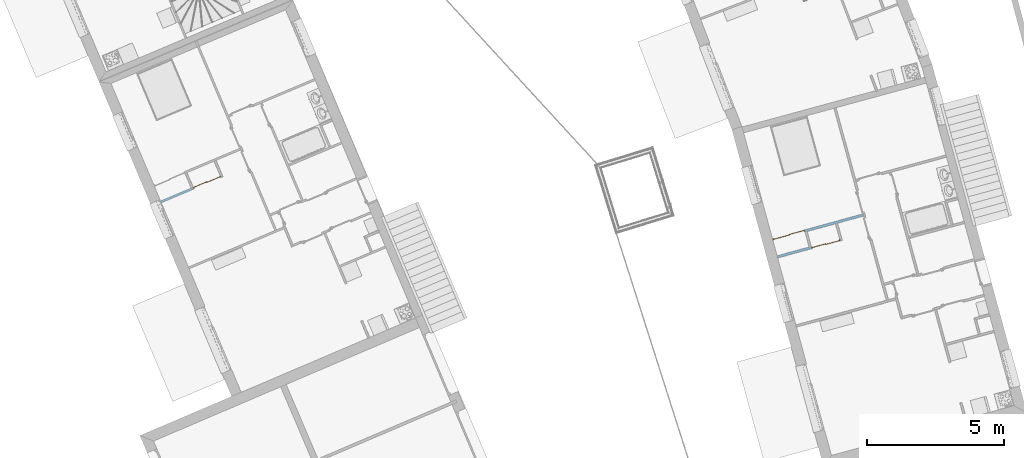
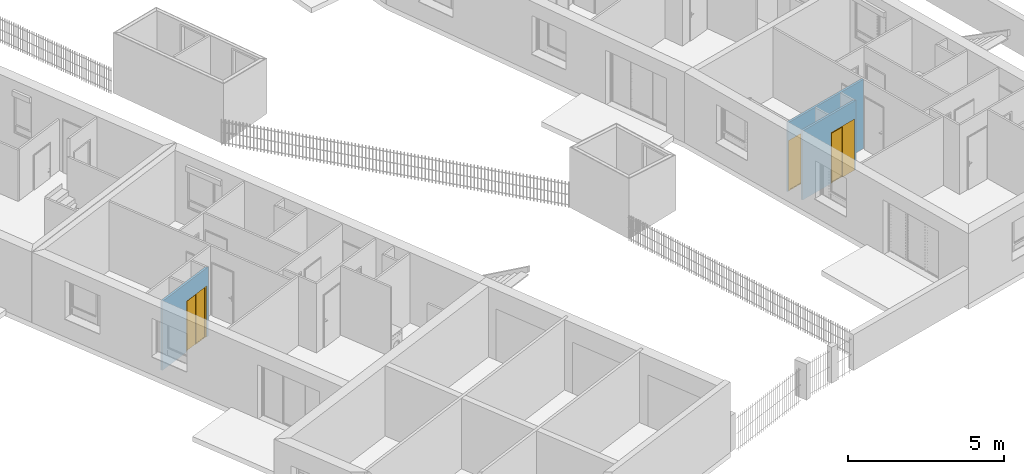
# One storey, part 110 of 195: 3 doors, 3 openings, plus 3 elements that do not belong to this part.
"""IFC2X3 building model written with IfcOpenShell, lengths in metres."""

from ifc_helpers import new_model, entity, si_unit, converted_unit, derived_unit, money_unit, direction, frame, origin_with_axes, origin_2d_with_axis, place, context, subcontext, project, spatial, polyline, rectangle, outline, extrude, open_shell, faceted_brep, surface_model, material, layer, layer_set, layer_usage, type_object, element, fill, save


model = new_model("IFC2X3")

# Units and contexts
model_context = context("Model", 3, precision=1e-05, world=origin_with_axes(), true_north=direction((0.0, 1.0)))
body_context = subcontext(model_context, "Body", "Model", "MODEL_VIEW")
ifc_project = project(units=[si_unit("LENGTHUNIT", "METRE"), si_unit("AREAUNIT", "SQUARE_METRE"), si_unit("VOLUMEUNIT", "CUBIC_METRE"), converted_unit("PLANEANGLEUNIT", "DEGREE", entity("IfcPlaneAngleMeasure", 0.0174532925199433), si_unit("PLANEANGLEUNIT", "RADIAN"), dimensions=[0, 0, 0, 0, 0, 0, 0]), money_unit("CHF"), converted_unit("TIMEUNIT", "Year", entity("IfcTimeMeasure", 31557600.0), si_unit("TIMEUNIT", "SECOND"), dimensions=[0, 0, 1, 0, 0, 0, 0]), si_unit("MASSUNIT", "GRAM", prefix="KILO"), si_unit("THERMODYNAMICTEMPERATUREUNIT", "DEGREE_CELSIUS"), si_unit("LUMINOUSINTENSITYUNIT", "LUMEN"), si_unit("ENERGYUNIT", "JOULE", prefix="MEGA"), derived_unit("THERMALCONDUCTANCEUNIT", [(si_unit("POWERUNIT", "WATT"), 1), (si_unit("LENGTHUNIT", "METRE"), -1), (si_unit("THERMODYNAMICTEMPERATUREUNIT", "KELVIN"), -1)]), derived_unit("SPECIFICHEATCAPACITYUNIT", [(si_unit("ENERGYUNIT", "JOULE"), 1), (si_unit("MASSUNIT", "GRAM", prefix="KILO"), -1), (si_unit("THERMODYNAMICTEMPERATUREUNIT", "KELVIN"), -1)]), derived_unit("MASSDENSITYUNIT", [(si_unit("MASSUNIT", "GRAM", prefix="KILO"), 1), (si_unit("VOLUMEUNIT", "CUBIC_METRE"), -1)])], contexts=[model_context])

# Site, building, storey
site_placement = place(None, origin_with_axes())
site = spatial("IfcSite", under=ifc_project, at=site_placement, Name="Site", CompositionType="ELEMENT")
building_placement = place(site_placement, origin_with_axes())
building = spatial("IfcBuilding", under=site, at=building_placement, Name="Bâtiment", CompositionType="ELEMENT")
storey_placement = place(building_placement, origin_with_axes())
storey = spatial("IfcBuildingStorey", under=building, at=storey_placement, Name="rdc", CompositionType="ELEMENT", Elevation=0.0)

# Wall, opening, door
ifc_material = material(Name="Hachure solide 268963992")
ifc_layer = layer(ifc_material, 0.07, ventilated="UNKNOWN")
ifc_layer_set = layer_set([ifc_layer], Name="Cloison 70 0826278243")
ifc_layer_usage_1 = layer_usage(ifc_layer_set, "AXIS2", "NEGATIVE", 0.0)
wall_type = type_object("IfcWallType", Name="Cloison 70 0826278243 70", PredefinedType="NOTDEFINED")
wall_1_placement = place(storey_placement, frame((9591.241468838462, -1050.20818230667, 57.7), z_axis=(0.0, 0.0, 1.0), x_axis=(-0.9648682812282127, -0.2627340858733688, 0.0)))
wall_1 = element("IfcWallStandardCase", 1, at=wall_1_placement, inside=storey, type_object=wall_type, material=ifc_layer_usage_1, Name="Mur-149", context=body_context, shape_type="SweptSolid", body=[
    extrude(outline(polyline([(0.07000000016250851, -0.06999999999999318), (3.491145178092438, -0.06999999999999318), (3.491145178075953, 0.0), (0.07000000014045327, 0.0), (0.07000000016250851, -0.06999999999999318)])), origin_with_axes(), (0.0, 0.0, 1.0), 2.7),
])
opening_1_placement = place(wall_1_placement, frame((2.874846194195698, 0.0, 0.0), z_axis=(0.0, 0.0, 1.0), x_axis=(1.0, 0.0, 0.0)))
opening_1 = element("IfcOpeningElement", 2, at=opening_1_placement, cuts=wall_1, Name="Por-353", context=body_context, shape_type="SweptSolid", body=[
    extrude(rectangle(XDim=1.200337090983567, YDim=2.0, at=origin_2d_with_axis()), frame((0.0, -0.06999999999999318, 1.0), z_axis=(0.0, 1.0, 0.0), x_axis=(1.0, 0.0, 0.0)), (0.0, 0.0, -1.0), 0.07),
    extrude(rectangle(XDim=1.200337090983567, YDim=2.0, at=origin_2d_with_axis()), frame((0.0, -0.06999999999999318, 1.0), z_axis=(0.0, -1.0, 0.0), x_axis=(1.0, 0.0, 0.0)), (0.0, 0.0, -1.0), 0.07),
])
door_style = type_object("IfcDoorStyle", ConstructionType="NOTDEFINED", OperationType="NOTDEFINED", ParameterTakesPrecedence=False, Sizeable=False)
door_1_placement = place(opening_1_placement, frame((0.6001685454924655, 0.0, 0.0), z_axis=(0.0, 0.0, 1.0), x_axis=(-1.0, 0.0, 0.0)))
door_1 = element("IfcDoor", 3, at=door_1_placement, inside=storey, type_object=door_style, Name="Por-353", OverallHeight=2.0, OverallWidth=1.20034, context=body_context, shape_type="SurfaceModel", body=[
    faceted_brep([(1.200337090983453, 0.06999999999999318, 0.0), (1.160337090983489, 0.06999999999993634, 0.0), (1.160337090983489, 0.06999999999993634, 1.960000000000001), (0.03999999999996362, 0.06999999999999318, 1.960000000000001), (0.03999999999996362, 0.06999999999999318, 0.0), (0.0, 0.06999999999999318, 0.0), (0.0, 0.06999999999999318, 2.0), (1.200337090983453, 0.06999999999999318, 2.0), (1.200337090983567, 0.01999999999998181, 0.0), (1.160337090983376, 0.01999999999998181, 0.0), (1.160337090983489, 0.02999999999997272, 0.0), (1.160337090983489, 0.02999999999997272, 1.960000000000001), (0.03999999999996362, 0.02999999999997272, 1.960000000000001), (0.03999999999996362, 0.02999999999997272, 0.0), (0.04000000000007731, 0.01999999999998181, 0.0), (0.0, 0.01999999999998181, 0.0), (0.0, 0.01999999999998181, 2.0), (1.200337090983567, 0.01999999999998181, 2.0), (0.04000000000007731, 0.01999999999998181, 1.960000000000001), (1.160337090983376, 0.01999999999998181, 1.960000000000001)], [[[0, 1, 2, 3, 4, 5, 6, 7]], [[0, 8, 9, 10, 1]], [[1, 10, 11, 2]], [[2, 11, 12, 3]], [[3, 12, 13, 4]], [[5, 4, 13, 14, 15]], [[16, 6, 5, 15]], [[17, 7, 6, 16]], [[8, 0, 7, 17]], [[9, 8, 17, 16, 15, 14, 18, 19]], [[10, 9, 19, 11]], [[11, 19, 18, 12]], [[12, 18, 14, 13]]]),
    faceted_brep([(0.03999999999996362, 0.05000000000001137, 0.0), (0.6151685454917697, 0.04999999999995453, 0.0), (0.6151685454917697, 0.02999999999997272, 0.0), (0.03999999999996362, 0.02999999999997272, 0.0), (0.03999999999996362, 0.05000000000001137, 1.960000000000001), (0.6151685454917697, 0.04999999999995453, 1.960000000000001), (0.06999999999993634, 0.04999999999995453, 0.03000000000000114), (0.5851685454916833, 0.05000000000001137, 0.03000000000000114), (0.5851685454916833, 0.05000000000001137, 1.93), (0.06999999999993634, 0.04999999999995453, 1.93), (0.6151685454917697, 0.02999999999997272, 1.960000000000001), (0.03999999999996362, 0.02999999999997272, 1.960000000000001), (0.06999999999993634, 0.02999999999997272, 0.03000000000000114), (0.06999999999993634, 0.02999999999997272, 1.93), (0.5851685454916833, 0.02999999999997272, 1.93), (0.5851685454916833, 0.02999999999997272, 0.03000000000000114)], [[[0, 1, 2, 3]], [[0, 4, 5, 1], [6, 7, 8, 9]], [[1, 5, 10, 2]], [[3, 2, 10, 11], [12, 13, 14, 15]], [[4, 0, 3, 11]], [[5, 4, 11, 10]], [[7, 6, 12, 15]], [[8, 7, 15, 14]], [[9, 8, 14, 13]], [[6, 9, 13, 12]]]),
    surface_model("IfcShellBasedSurfaceModel", [(0.06999999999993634, 0.03999999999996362, 0.03000000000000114), (0.5851685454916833, 0.04000000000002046, 0.03000000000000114), (0.5851685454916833, 0.04000000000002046, 1.93), (0.06999999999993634, 0.03999999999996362, 1.93)], [open_shell([[[0, 1, 2, 3]]])]),
    faceted_brep([(0.5851685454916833, 0.06999999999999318, 0.0), (1.160337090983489, 0.06999999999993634, 0.0), (1.160337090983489, 0.04999999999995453, 0.0), (0.5851685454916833, 0.05000000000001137, 0.0), (0.5851685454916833, 0.06999999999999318, 1.960000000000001), (1.160337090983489, 0.06999999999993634, 1.960000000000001), (1.160337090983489, 0.04999999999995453, 1.960000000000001), (0.5851685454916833, 0.05000000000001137, 1.960000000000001)], [[[0, 1, 2, 3]], [[0, 4, 5, 1]], [[1, 5, 6, 2]], [[3, 2, 6, 7]], [[4, 0, 3, 7]], [[5, 4, 7, 6]]]),
])
fill(opening_1, door_1)

ifc_layer_usage_2 = layer_usage(ifc_layer_set, "AXIS2", "NEGATIVE", 0.0)
wall_2_placement = place(storey_placement, frame((9590.327436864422, -1051.130733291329, 57.7), z_axis=(0.0, 0.0, 1.0), x_axis=(-0.9648682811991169, -0.2627340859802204, 0.0)))
wall_2 = element("IfcWallStandardCase", 4, at=wall_2_placement, inside=storey, type_object=wall_type, material=ifc_layer_usage_2, Name="Mur-149", context=body_context, shape_type="SweptSolid", body=[
    extrude(outline(polyline([(0.0, -0.06999999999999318), (2.366839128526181, -0.06999999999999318), (2.366839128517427, 0.0), (-0.07000000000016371, 0.0), (0.0, -0.06999999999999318)])), origin_with_axes(), (0.0, 0.0, 1.0), 2.7),
])
opening_2_placement = place(wall_2_placement, frame((0.5401857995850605, 0.0, 0.0), z_axis=(0.0, 0.0, 1.0), x_axis=(1.0, 0.0, 0.0)))
opening_2 = element("IfcOpeningElement", 5, at=opening_2_placement, cuts=wall_2, Name="Por-352", context=body_context, shape_type="SweptSolid", body=[
    extrude(rectangle(XDim=1.080371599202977, YDim=2.0, at=origin_2d_with_axis()), frame((0.0, 0.0, 1.0), z_axis=(0.0, -1.0, 0.0), x_axis=(1.0, 0.0, 0.0)), (0.0, 0.0, -1.0), 0.07),
    extrude(rectangle(XDim=1.080371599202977, YDim=2.0, at=origin_2d_with_axis()), frame((0.0, 0.0, 1.0), z_axis=(0.0, 1.0, 0.0), x_axis=(1.0, 0.0, 0.0)), (0.0, 0.0, -1.0), 0.07),
])
door_2_placement = place(opening_2_placement, frame((-0.5401857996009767, 0.0, 0.0), z_axis=(0.0, 0.0, 1.0), x_axis=(1.0, 0.0, 0.0)))
door_2 = element("IfcDoor", 6, at=door_2_placement, inside=storey, type_object=door_style, Name="Por-352", OverallHeight=2.0, OverallWidth=1.08037, context=body_context, shape_type="SurfaceModel", body=[
    faceted_brep([(0.0, 0.0, 0.0), (0.0, 0.0, 2.0), (1.08037159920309, 0.0, 2.0), (1.08037159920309, 0.0, 0.0), (1.040371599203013, 0.0, 0.0), (1.040371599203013, 0.0, 1.960000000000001), (0.04000000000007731, 0.0, 1.960000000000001), (0.04000000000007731, 0.0, 0.0), (0.0, -0.05000000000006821, 0.0), (0.0, -0.05000000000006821, 2.0), (1.08037159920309, -0.05000000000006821, 2.0), (1.08037159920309, -0.05000000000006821, 0.0), (1.040371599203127, -0.05000000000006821, 0.0), (1.040371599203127, -0.04000000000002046, 0.0), (1.040371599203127, -0.04000000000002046, 1.960000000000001), (0.04000000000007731, -0.04000000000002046, 1.960000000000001), (0.04000000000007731, -0.04000000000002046, 0.0), (0.04000000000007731, -0.05000000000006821, 0.0), (0.04000000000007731, -0.05000000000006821, 1.960000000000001), (1.040371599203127, -0.05000000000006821, 1.960000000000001)], [[[0, 1, 2, 3, 4, 5, 6, 7]], [[8, 9, 1, 0]], [[9, 10, 2, 1]], [[10, 11, 3, 2]], [[3, 11, 12, 13, 4]], [[5, 4, 13, 14]], [[6, 5, 14, 15]], [[7, 6, 15, 16]], [[0, 7, 16, 17, 8]], [[17, 18, 19, 12, 11, 10, 9, 8]], [[14, 13, 12, 19]], [[15, 14, 19, 18]], [[16, 15, 18, 17]]]),
    faceted_brep([(1.040371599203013, -0.02000000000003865, 0.0), (1.040371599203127, -0.04000000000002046, 0.0), (0.5251857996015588, -0.04000000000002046, 0.0), (0.5251857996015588, -0.02000000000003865, 0.0), (1.040371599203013, -0.02000000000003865, 1.960000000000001), (1.040371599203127, -0.04000000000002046, 1.960000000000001), (0.5251857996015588, -0.04000000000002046, 1.960000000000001), (1.01037159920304, -0.04000000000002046, 0.03000000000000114), (0.5551857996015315, -0.04000000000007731, 0.03000000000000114), (0.5551857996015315, -0.04000000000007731, 1.93), (1.01037159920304, -0.04000000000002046, 1.93), (0.5251857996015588, -0.02000000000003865, 1.960000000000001), (1.010371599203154, -0.02000000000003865, 0.03000000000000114), (1.010371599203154, -0.02000000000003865, 1.93), (0.5551857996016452, -0.02000000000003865, 1.93), (0.5551857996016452, -0.02000000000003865, 0.03000000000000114)], [[[0, 1, 2, 3]], [[4, 5, 1, 0]], [[1, 5, 6, 2], [7, 8, 9, 10]], [[3, 2, 6, 11]], [[0, 3, 11, 4], [12, 13, 14, 15]], [[11, 6, 5, 4]], [[15, 8, 7, 12]], [[14, 9, 8, 15]], [[13, 10, 9, 14]], [[12, 7, 10, 13]]]),
    surface_model("IfcShellBasedSurfaceModel", [(1.01037159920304, -0.0300000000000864, 0.03000000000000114), (1.01037159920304, -0.0300000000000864, 1.93), (0.5551857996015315, -0.0300000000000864, 1.93), (0.5551857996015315, -0.0300000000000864, 0.03000000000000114)], [open_shell([[[0, 1, 2, 3]]])]),
    faceted_brep([(0.5551857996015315, 0.0, 0.0), (0.5551857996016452, -0.02000000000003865, 0.0), (0.03999999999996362, -0.02000000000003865, 0.0), (0.04000000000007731, 0.0, 0.0), (0.5551857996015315, 0.0, 1.960000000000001), (0.5551857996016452, -0.02000000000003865, 1.960000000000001), (0.03999999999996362, -0.02000000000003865, 1.960000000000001), (0.04000000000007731, 0.0, 1.960000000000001)], [[[0, 1, 2, 3]], [[4, 5, 1, 0]], [[1, 5, 6, 2]], [[3, 2, 6, 7]], [[0, 3, 7, 4]], [[7, 6, 5, 4]]]),
])
fill(opening_2, door_2)

ifc_layer_usage_3 = layer_usage(ifc_layer_set, "AXIS2", "NEGATIVE", 0.0)
wall_3_placement = place(storey_placement, frame((9567.740119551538, -1048.825822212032, 57.7), z_axis=(0.0, 0.0, 1.0), x_axis=(-0.921420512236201, -0.3885669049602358, 0.0)))
wall_3 = element("IfcWallStandardCase", 7, at=wall_3_placement, inside=storey, type_object=wall_type, material=ifc_layer_usage_3, Name="Mur-149", context=body_context, shape_type="SweptSolid", body=[
    extrude(outline(polyline([(0.0, -0.06999999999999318), (2.366839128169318, -0.06999999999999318), (2.366839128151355, 0.0), (-0.07000000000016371, 0.0), (0.0, -0.06999999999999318)])), origin_with_axes(), (0.0, 0.0, 1.0), 2.7),
])
opening_3_placement = place(wall_3_placement, frame((0.5401857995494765, 0.0, 0.0), z_axis=(0.0, 0.0, 1.0), x_axis=(1.0, 0.0, 0.0)))
opening_3 = element("IfcOpeningElement", 8, at=opening_3_placement, cuts=wall_3, Name="Por-348", context=body_context, shape_type="SweptSolid", body=[
    extrude(rectangle(XDim=1.080371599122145, YDim=2.0, at=origin_2d_with_axis()), frame((0.0, -0.06999999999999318, 1.0), z_axis=(0.0, 1.0, 0.0), x_axis=(1.0, 0.0, 0.0)), (0.0, 0.0, -1.0), 0.07),
    extrude(rectangle(XDim=1.080371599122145, YDim=2.0, at=origin_2d_with_axis()), frame((0.0, -0.06999999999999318, 1.0), z_axis=(0.0, -1.0, 0.0), x_axis=(1.0, 0.0, 0.0)), (0.0, 0.0, -1.0), 0.07),
])
door_3_placement = place(opening_3_placement, frame((0.5401857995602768, 0.0, 0.0), z_axis=(0.0, 0.0, 1.0), x_axis=(-1.0, 0.0, 0.0)))
door_3 = element("IfcDoor", 9, at=door_3_placement, inside=storey, type_object=door_style, Name="Por-348", OverallHeight=2.0, OverallWidth=1.08037, context=body_context, shape_type="SurfaceModel", body=[
    faceted_brep([(0.0, 0.07000000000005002, 0.0), (0.0, 0.07000000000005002, 2.0), (1.080371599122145, 0.07000000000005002, 2.0), (1.080371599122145, 0.07000000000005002, 0.0), (1.040371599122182, 0.07000000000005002, 0.0), (1.040371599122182, 0.07000000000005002, 1.960000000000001), (0.03999999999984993, 0.07000000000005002, 1.960000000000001), (0.03999999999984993, 0.07000000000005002, 0.0), (0.0, 0.0200000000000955, 0.0), (0.0, 0.0200000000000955, 2.0), (1.080371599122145, 0.02000000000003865, 2.0), (1.080371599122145, 0.02000000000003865, 0.0), (1.040371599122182, 0.02000000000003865, 0.0), (1.040371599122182, 0.0300000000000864, 0.0), (1.040371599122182, 0.0300000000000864, 1.960000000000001), (0.03999999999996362, 0.0300000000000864, 1.960000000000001), (0.03999999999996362, 0.0300000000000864, 0.0), (0.03999999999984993, 0.0200000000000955, 0.0), (0.03999999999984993, 0.0200000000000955, 1.960000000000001), (1.040371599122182, 0.02000000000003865, 1.960000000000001)], [[[0, 1, 2, 3, 4, 5, 6, 7]], [[8, 9, 1, 0]], [[9, 10, 2, 1]], [[10, 11, 3, 2]], [[3, 11, 12, 13, 4]], [[5, 4, 13, 14]], [[6, 5, 14, 15]], [[7, 6, 15, 16]], [[0, 7, 16, 17, 8]], [[17, 18, 19, 12, 11, 10, 9, 8]], [[14, 13, 12, 19]], [[15, 14, 19, 18]], [[16, 15, 18, 17]]]),
    faceted_brep([(1.040371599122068, 0.05000000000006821, 0.0), (1.040371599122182, 0.0300000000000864, 0.0), (0.5251857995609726, 0.0300000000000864, 0.0), (0.5251857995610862, 0.05000000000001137, 0.0), (1.040371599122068, 0.05000000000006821, 1.960000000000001), (1.040371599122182, 0.0300000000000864, 1.960000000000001), (0.5251857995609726, 0.0300000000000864, 1.960000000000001), (1.010371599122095, 0.0300000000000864, 0.03000000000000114), (0.5551857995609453, 0.03000000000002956, 0.03000000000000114), (0.5551857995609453, 0.03000000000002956, 1.93), (1.010371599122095, 0.0300000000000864, 1.93), (0.5251857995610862, 0.05000000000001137, 1.960000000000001), (1.010371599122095, 0.05000000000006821, 0.03000000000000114), (1.010371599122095, 0.05000000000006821, 1.93), (0.555185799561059, 0.05000000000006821, 1.93), (0.555185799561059, 0.05000000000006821, 0.03000000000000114)], [[[0, 1, 2, 3]], [[4, 5, 1, 0]], [[1, 5, 6, 2], [7, 8, 9, 10]], [[3, 2, 6, 11]], [[0, 3, 11, 4], [12, 13, 14, 15]], [[11, 6, 5, 4]], [[15, 8, 7, 12]], [[14, 9, 8, 15]], [[13, 10, 9, 14]], [[12, 7, 10, 13]]]),
    surface_model("IfcShellBasedSurfaceModel", [(1.010371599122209, 0.04000000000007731, 0.03000000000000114), (1.010371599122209, 0.04000000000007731, 1.93), (0.555185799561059, 0.04000000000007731, 1.93), (0.555185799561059, 0.04000000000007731, 0.03000000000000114)], [open_shell([[[0, 1, 2, 3]]])]),
    faceted_brep([(0.555185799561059, 0.07000000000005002, 0.0), (0.555185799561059, 0.05000000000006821, 0.0), (0.04000000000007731, 0.05000000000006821, 0.0), (0.03999999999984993, 0.07000000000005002, 0.0), (0.555185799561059, 0.07000000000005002, 1.960000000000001), (0.555185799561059, 0.05000000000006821, 1.960000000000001), (0.04000000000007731, 0.05000000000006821, 1.960000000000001), (0.03999999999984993, 0.07000000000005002, 1.960000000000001)], [[[0, 1, 2, 3]], [[4, 5, 1, 0]], [[1, 5, 6, 2]], [[3, 2, 6, 7]], [[0, 3, 7, 4]], [[7, 6, 5, 4]]]),
])
fill(opening_3, door_3)

save(model, "model.ifc")
